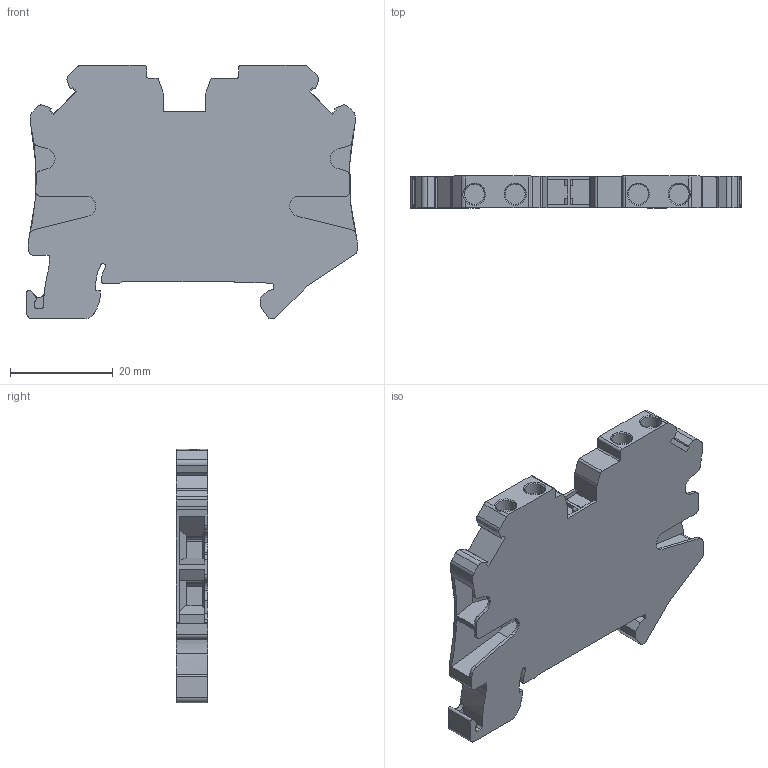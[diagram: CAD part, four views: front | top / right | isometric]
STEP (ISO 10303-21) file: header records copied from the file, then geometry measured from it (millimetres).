
FILE_DESCRIPTION( ('This file contains a STEP AP42 implementation' ,'as created by ZW3D STEP Interface translator.') ,'2;1' );
FILE_NAME( 'RUT4-QUATTRO-HV .stp' ,'23 729.161051', (''), ('ZWCAD Software Co.'), 'Version 1.0', 'ZW3D to STEP translator', '' );
FILE_SCHEMA(('AUTOMOTIVE_DESIGN { 1 0 10303 214 1 1 1 1 }'));
Length unit declared in the file: millimetre
Products named in the file (2): 0; RUT4-QUATTRO-HV 俋褲
Bounding box: 64.3 x 6.15 x 49.37 mm (x, y, z)
Volume: 13457.6 mm3; surface area: 7562.3 mm2
Topology: 1 solids, 1 shells, 228 faces, 676 edges, 452 vertices
Faces by surface type: plane 146, cylinder 76, cone 4, bspline 2
Full cylindrical faces by diameter (mm): 3.9 x4
Entity records: 7985 total; most frequent: CARTESIAN_POINT 1459, ORIENTED_EDGE 1352, DIRECTION 1293, EDGE_CURVE 676, VECTOR 493, LINE 493, VERTEX_POINT 452, AXIS2_PLACEMENT_3D 400
